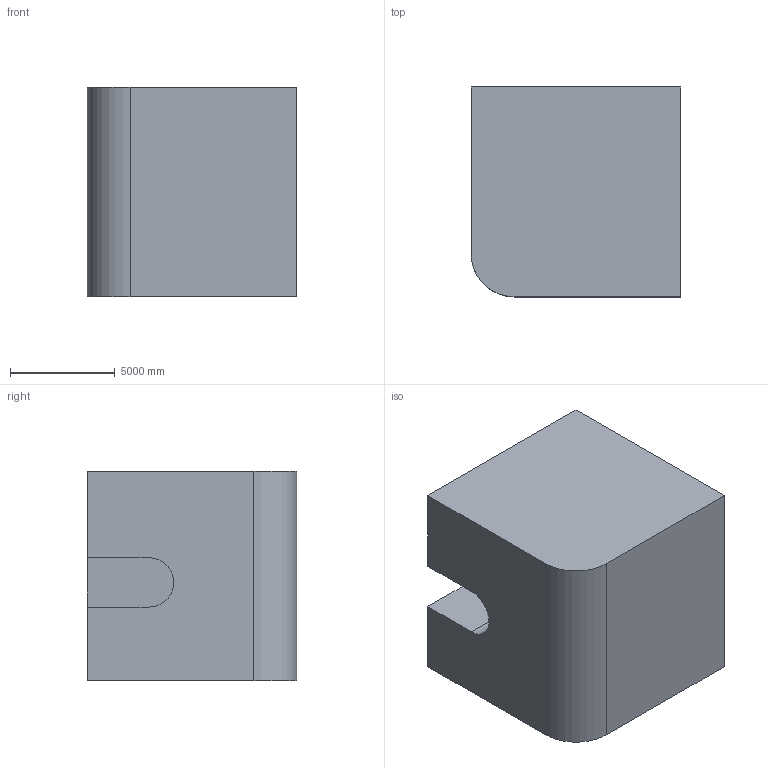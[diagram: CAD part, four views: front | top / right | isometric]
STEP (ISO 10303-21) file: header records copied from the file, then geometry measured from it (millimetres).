
FILE_DESCRIPTION (( 'STEP AP203' ), '1' );
FILE_NAME ('39.STEP', '2022-08-31T11:14:59', ( 'user' ), ( '' ), 'SwSTEP 2.0', 'SolidWorks 2021', '' );
FILE_SCHEMA (( 'CONFIG_CONTROL_DESIGN' ));
Length unit declared in the file: centimetre
Products named in the file (1): 39
Bounding box: 10000 x 10000 x 10000 mm (x, y, z)
Volume: 919710296891.3 mm3; surface area: 646174746.8 mm2
Topology: 1 solids, 1 shells, 11 faces, 27 edges, 18 vertices
Faces by surface type: plane 9, cylinder 2
Entity records: 402 total; most frequent: CARTESIAN_POINT 57, DIRECTION 55, ORIENTED_EDGE 54, EDGE_CURVE 27, VECTOR 23, LINE 23, VERTEX_POINT 18, AXIS2_PLACEMENT_3D 16
